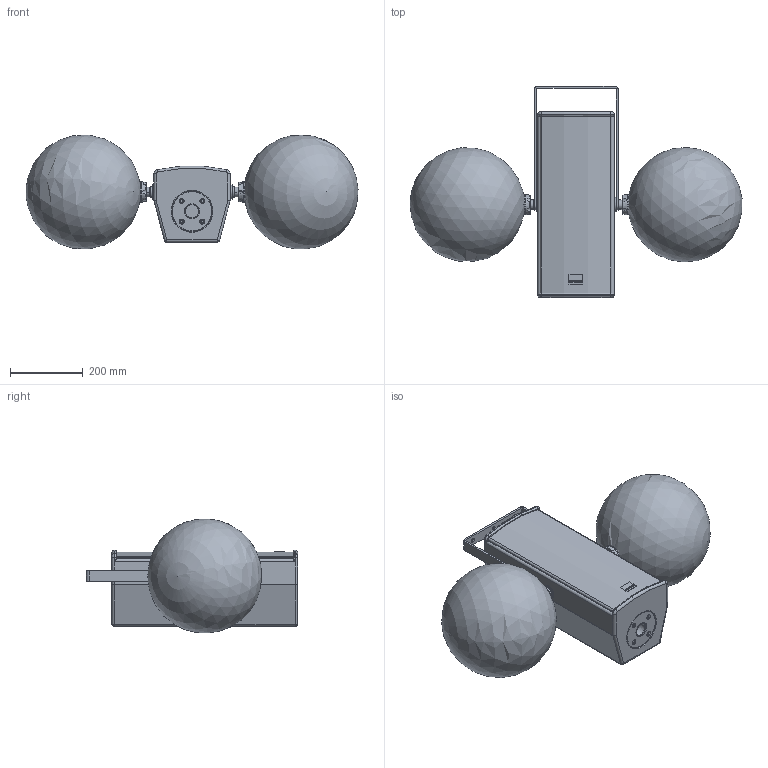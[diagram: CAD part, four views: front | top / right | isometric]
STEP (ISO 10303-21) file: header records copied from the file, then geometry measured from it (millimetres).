
FILE_DESCRIPTION (( 'STEP AP203' ), '1' );
FILE_NAME ('SEEBURG_A2_Bracket-ver.STEP', '2012-09-27T13:31:52', ( 'Fabian' ), ( '' ), 'SwSTEP 2.0', 'SolidWorks 2009', '' );
FILE_SCHEMA (( 'CONFIG_CONTROL_DESIGN' ));
Length unit declared in the file: millimetre
Products named in the file (2): A2_Bracket-ver; SEEBURG_A2_Bracket-ver
Assembly tree (1 placements, depth 2):
  SEEBURG_A2_Bracket-ver
    A2_Bracket-ver
Bounding box: 911.99 x 580 x 312.21 mm (x, y, z)
Volume: 39946120.8 mm3; surface area: 1833359.8 mm2
Topology: 21 solids, 21 shells, 531 faces, 1303 edges, 832 vertices
Faces by surface type: cylinder 208, plane 170, cone 74, torus 62, sphere 11, bspline 6
Entity records: 18190 total; most frequent: CARTESIAN_POINT 5274, DIRECTION 2801, ORIENTED_EDGE 2582, EDGE_CURVE 1291, AXIS2_PLACEMENT_3D 1113, VERTEX_POINT 825, EDGE_LOOP 600, CIRCLE 584
